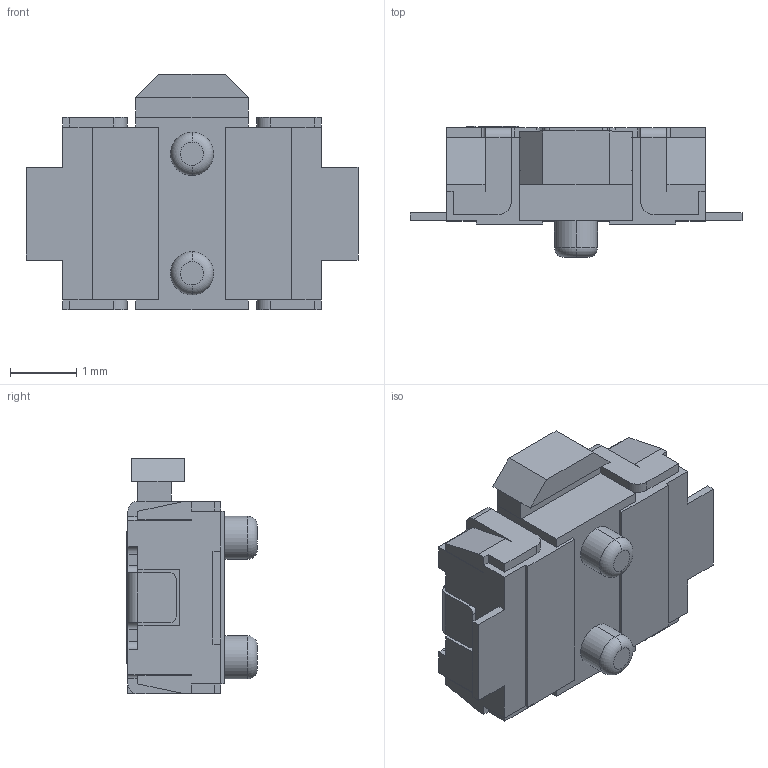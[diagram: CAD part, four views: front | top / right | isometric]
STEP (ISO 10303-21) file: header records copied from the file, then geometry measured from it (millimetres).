
FILE_DESCRIPTION((''),'2;1');
FILE_NAME('B002-H0001_3X4_-_----_LOGO','2024-01-09T',('WYH'),(''),'PRO/ENGINEER BY PARAMETRIC TECHNOLOGY CORPORATION, 2013040','PRO/ENGINEER BY PARAMETRIC TECHNOLOGY CORPORATION, 2013040','');
FILE_SCHEMA(('CONFIG_CONTROL_DESIGN'));
Length unit declared in the file: millimetre
Products named in the file (1): B002-H0001_3X4_-_----_LOGO
Bounding box: 5 x 1.97 x 3.55 mm (x, y, z)
Volume: 15.8 mm3; surface area: 63.9 mm2
Topology: 1 solids, 1 shells, 260 faces, 737 edges, 486 vertices
Faces by surface type: plane 198, cylinder 58, torus 4
Entity records: 8420 total; most frequent: CARTESIAN_POINT 1502, ORIENTED_EDGE 1474, DIRECTION 1387, EDGE_CURVE 737, VECTOR 599, LINE 599, VERTEX_POINT 486, AXIS2_PLACEMENT_3D 394
